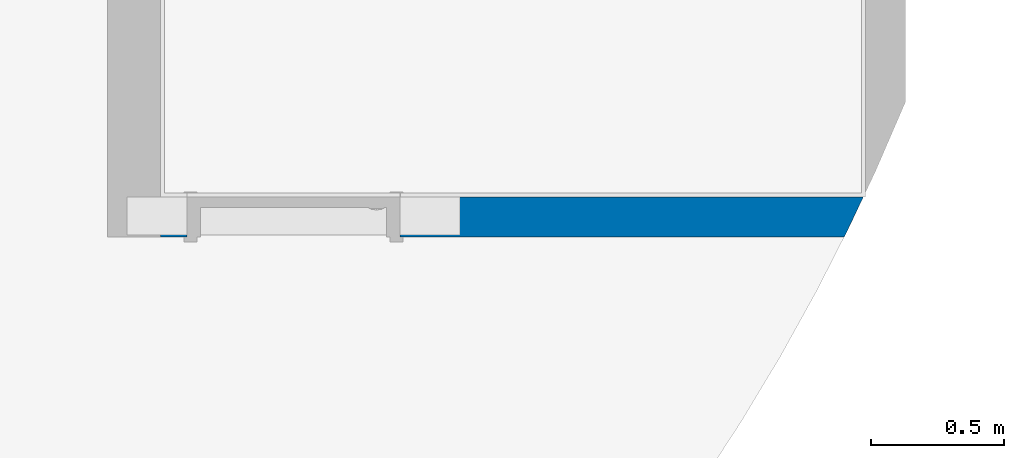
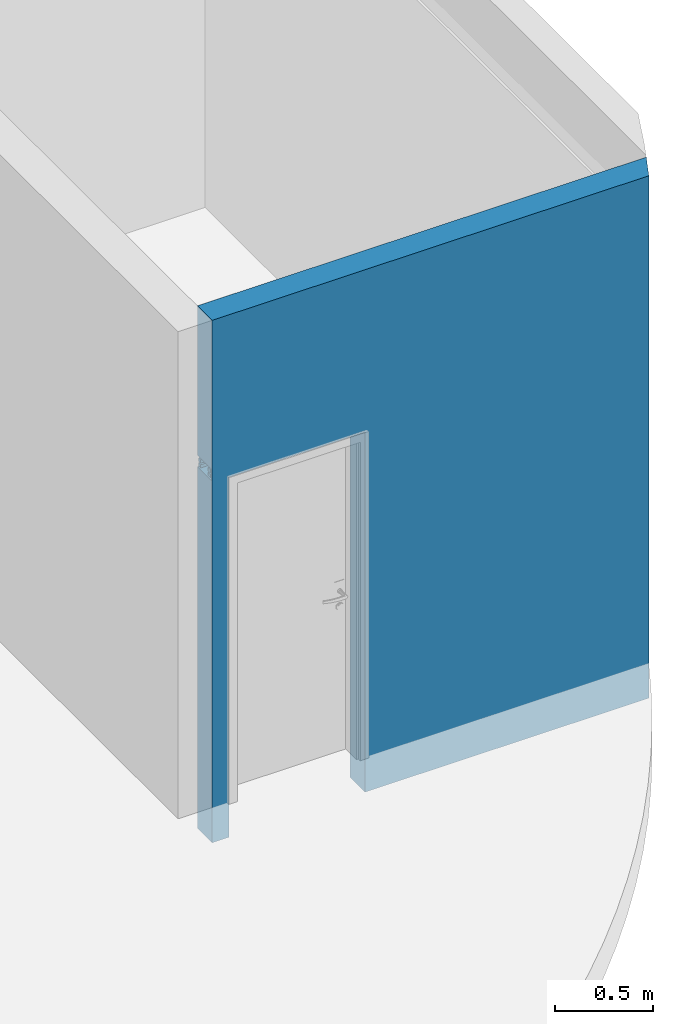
# One storey, part 17 of 21: 1 wall, 1 opening.
"""IFC4 building model written with IfcOpenShell, lengths in millimetres."""

from ifc_helpers import new_model, entity, si_unit, converted_unit, derived_unit, direction, frame, origin_with_axes, place, context, subcontext, project, spatial, polygons, material, constituent, constituent_set, type_object, element, save


model = new_model("IFC4")

# Units and contexts
model_context = context("Model", 3, precision=0.01, world=origin_with_axes(), true_north=direction((0.0, 1.0)))
body_context = subcontext(model_context, "Body", "Model", "MODEL_VIEW")
ifc_project = project(units=[si_unit("LENGTHUNIT", "METRE", prefix="MILLI"), si_unit("AREAUNIT", "SQUARE_METRE"), si_unit("VOLUMEUNIT", "CUBIC_METRE"), converted_unit("PLANEANGLEUNIT", "DEGREE", entity("IfcPlaneAngleMeasure", 0.0174532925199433), si_unit("PLANEANGLEUNIT", "RADIAN"), dimensions=[0, 0, 0, 0, 0, 0, 0]), converted_unit("TIMEUNIT", "Year", entity("IfcTimeMeasure", 31557600.0), si_unit("TIMEUNIT", "SECOND"), dimensions=[0, 0, 1, 0, 0, 0, 0]), si_unit("MASSUNIT", "GRAM", prefix="KILO"), si_unit("THERMODYNAMICTEMPERATUREUNIT", "DEGREE_CELSIUS"), si_unit("LUMINOUSINTENSITYUNIT", "LUMEN"), si_unit("ENERGYUNIT", "JOULE", prefix="MEGA"), derived_unit("THERMALCONDUCTANCEUNIT", [(si_unit("POWERUNIT", "WATT"), 1), (si_unit("LENGTHUNIT", "METRE"), -1), (si_unit("THERMODYNAMICTEMPERATUREUNIT", "KELVIN"), -1)]), derived_unit("SPECIFICHEATCAPACITYUNIT", [(si_unit("ENERGYUNIT", "JOULE"), 1), (si_unit("MASSUNIT", "GRAM", prefix="KILO"), -1), (si_unit("THERMODYNAMICTEMPERATUREUNIT", "KELVIN"), -1)]), derived_unit("MASSDENSITYUNIT", [(si_unit("MASSUNIT", "GRAM", prefix="KILO"), 1), (si_unit("VOLUMEUNIT", "CUBIC_METRE"), -1)])], contexts=[model_context])

# Site, building, storey
site_placement = place(None, origin_with_axes())
site = spatial("IfcSite", under=ifc_project, at=site_placement, Name="Exteriér", CompositionType="ELEMENT")
building_placement = place(site_placement, origin_with_axes())
building = spatial("IfcBuilding", under=site, at=building_placement, Name="Univerzitní lezecké centrum", CompositionType="ELEMENT")
storey_placement = place(building_placement, frame((0.0, 0.0, -3350.0), z_axis=(0.0, 0.0, 1.0), x_axis=(1.0, 0.0, 0.0)))
storey = spatial("IfcBuildingStorey", under=building, at=storey_placement, Name="1.PP", CompositionType="ELEMENT", Elevation=-3350.0)

# Wall, opening
ifc_material = material(Name="Keramické tvárnice nenosné tl. 150 mm")
ifc_constituent = constituent(ifc_material, Name="Keramické tvárnice nenosné tl. 150 mm")
ifc_constituent_set = constituent_set(constituents=[ifc_constituent], Name="!Vnitřní keramická stěna 150 mm - nenosná*")
wall_type = type_object("IfcWallType", Name="!Vnitřní keramická stěna 150 mm - nenosná* 150", PredefinedType="NOTDEFINED")
wall_placement = place(storey_placement, frame((9691.398444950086, -3700.000000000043, -220.0000000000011), z_axis=(0.0, 0.0, 1.0), x_axis=(-1.0, 0.0, 0.0)))
wall = element("IfcWall", 1, at=wall_placement, inside=storey, type_object=wall_type, material=ifc_constituent_set, Name="St07*", PredefinedType="NOTDEFINED", context=body_context, shape_type="Tessellation", body=[
    polygons([(2541.76007291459, 150.0000929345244, 0.500000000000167), (2541.76007291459, -3.262183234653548e-05, 0.500000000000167), (2541.760101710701, 0.0, 220.0000000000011), (2541.760101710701, 150.0000000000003, 220.0000000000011), (2541.76007291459, -3.262183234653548e-05, 0.0), (2541.76007291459, 150.0000929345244, 0.0), (1741.760160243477, -3.262183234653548e-05, 0.0), (1741.760160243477, -3.262183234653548e-05, 0.500000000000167), (1741.760101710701, 0.0, 220.0000000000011), (1741.760101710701, 0.0, 2240.000000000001), (2541.760101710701, 0.0, 2240.000000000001), (2641.286278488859, 0.0, 0.0), (2641.286278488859, 0.0, 2250.000000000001), (1516.7601017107, 0.0, 2250.000000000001), (1516.7601017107, 0.0, 2321.0), (2641.286278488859, 0.0, 2321.0), (2641.286278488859, 0.0, 3250.0), (0.0, 0.0, 3250.0), (-0.1005966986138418, 0.0, 3250.000000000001), (-0.1005966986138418, 0.0, 0.0), (2541.760101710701, 150.0000000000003, 2240.000000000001), (1741.760160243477, 150.0000929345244, 0.500000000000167), (1741.760160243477, 150.0000929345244, 0.0), (71.20078333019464, 150.0000000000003, 0.0), (71.20078333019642, 150.0000000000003, 3250.0), (2641.286278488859, 150.0000000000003, 3250.0), (2641.286278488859, 150.0000000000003, 0.0), (1741.760101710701, 150.0000000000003, 2240.000000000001), (1741.760101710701, 150.0000000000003, 220.0000000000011), (2641.286278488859, 144.274998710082, 2321.0), (2641.286278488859, 144.274998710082, 2250.000000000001), (1516.7601017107, 144.274998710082, 2250.000000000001), (1516.7601017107, 144.274998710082, 2321.0), (1516.7601017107, 33.33250000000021, 2260.499637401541), (1516.7601017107, 11.44250000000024, 2260.499637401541), (1516.7601017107, 11.44250000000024, 2280.499637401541), (1516.7601017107, 33.33250000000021, 2280.499637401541), (1516.7601017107, 33.33250000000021, 2290.5), (1516.7601017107, 11.44250000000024, 2290.5), (1516.7601017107, 11.44250000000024, 2310.500000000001), (1516.7601017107, 33.33250000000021, 2310.500000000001), (1516.7601017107, 132.8313637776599, 2280.499637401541), (1516.7601017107, 132.8313637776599, 2260.499637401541), (1516.7601017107, 110.9413637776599, 2260.499637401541), (1516.7601017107, 110.9413637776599, 2280.499637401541), (1516.7601017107, 110.9413637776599, 2290.5), (1516.7601017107, 110.9413637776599, 2310.500000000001), (1516.7601017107, 132.8313637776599, 2310.500000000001), (1516.7601017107, 132.8313637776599, 2290.5), (0.0, 0.2116299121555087, 3250.0), (2641.286278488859, 33.33249999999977, 2260.499637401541), (2641.286278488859, 11.4424999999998, 2260.499637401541), (2641.286278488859, 11.4424999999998, 2280.499637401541), (2641.286278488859, 33.33249999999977, 2280.499637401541), (2641.286278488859, 33.33249999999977, 2290.5), (2641.286278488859, 11.4424999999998, 2290.5), (2641.286278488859, 11.4424999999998, 2310.500000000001), (2641.286278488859, 33.33249999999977, 2310.500000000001), (2641.286278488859, 132.8313637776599, 2280.499637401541), (2641.286278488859, 132.8313637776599, 2260.499637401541), (2641.286278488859, 110.9413637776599, 2260.499637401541), (2641.286278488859, 110.9413637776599, 2280.499637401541), (2641.286278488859, 110.9413637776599, 2290.5), (2641.286278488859, 110.9413637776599, 2310.500000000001), (2641.286278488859, 132.8313637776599, 2310.500000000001), (2641.286278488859, 132.8313637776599, 2290.5)], [[[1, 2, 3, 4]], [[5, 2, 1, 6]], [[7, 8, 9, 10, 11, 3, 2, 5, 12, 13, 14, 15, 16, 17, 18, 19, 20]], [[21, 4, 3, 11]], [[22, 23, 24, 25, 26, 27, 6, 1, 4, 21, 28, 29]], [[5, 6, 27, 12]], [[22, 8, 7, 23]], [[8, 22, 29, 9]], [[29, 28, 10, 9]], [[28, 21, 11, 10]], [[16, 30, 31, 13, 12, 27, 26, 17]], [[32, 14, 13, 31]], [[15, 14, 32, 33], [34, 35, 36, 37], [38, 39, 40, 41], [42, 43, 44, 45], [46, 47, 48, 49]], [[15, 33, 30, 16]], [[50, 18, 17, 26, 25]], [[50, 19, 18]], [[50, 25, 24, 20, 19]], [[23, 7, 20, 24]], [[32, 31, 30, 33]], [[34, 51, 52, 35]], [[35, 52, 53, 36]], [[36, 53, 54, 37]], [[37, 54, 51, 34]], [[38, 55, 56, 39]], [[39, 56, 57, 40]], [[40, 57, 58, 41]], [[41, 58, 55, 38]], [[42, 59, 60, 43]], [[43, 60, 61, 44]], [[44, 61, 62, 45]], [[45, 62, 59, 42]], [[46, 63, 64, 47]], [[47, 64, 65, 48]], [[48, 65, 66, 49]], [[49, 66, 63, 46]], [[52, 51, 54, 53]], [[56, 55, 58, 57]], [[61, 60, 59, 62]], [[63, 66, 65, 64]]], closed=True),
])
opening_placement = place(wall_placement, frame((2141.760101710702, 0.0, 220.0000000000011), z_axis=(0.0, 0.0, 1.0), x_axis=(1.0, 0.0, 0.0)))
element("IfcOpeningElement", 2, at=opening_placement, cuts=wall, Name="D05", context=body_context, identifier="Reference", shape_type="Tessellation", body=[
    polygons([(400.0000000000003, -1.000000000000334, 2020.0), (-400.0000000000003, -1.000000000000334, 2020.0), (-400.0000000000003, -1.000000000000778, 0.0), (400.0000000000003, -1.000000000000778, 0.0), (411.9999999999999, -1.000000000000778, 0.0), (411.9999999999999, -1.000000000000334, 2032.0), (-411.9999999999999, -1.000000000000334, 2032.0), (-411.9999999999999, -1.000000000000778, 0.0), (400.0000000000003, 0.0, 0.0), (-400.0000000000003, 0.0, 0.0), (-400.0000000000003, 149.9999999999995, 0.0), (-400.0000000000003, 150.9999999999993, 0.0), (400.0000000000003, 150.9999999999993, 0.0), (400.0000000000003, 149.9999999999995, 0.0), (411.9999999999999, 0.0, 0.0), (411.9999999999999, 0.0, 2032.0), (-411.9999999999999, 0.0, 2032.0), (-411.9999999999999, 0.0, 0.0), (-400.0000000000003, 0.0, 2020.0), (-400.0000000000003, 149.9999999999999, 2020.0), (-411.9999999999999, 149.9999999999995, 0.0), (-411.9999999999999, 150.9999999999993, 0.0), (-411.9999999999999, 150.9999999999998, 2032.0), (411.9999999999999, 150.9999999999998, 2032.0), (411.9999999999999, 150.9999999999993, 0.0), (411.9999999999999, 149.9999999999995, 0.0), (400.0000000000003, 0.0, 2020.0), (400.0000000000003, 149.9999999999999, 2020.0), (411.9999999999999, 149.9999999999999, 2032.0), (-411.9999999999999, 149.9999999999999, 2032.0)], [[[1, 2, 3, 4]], [[3, 2, 1, 4, 5, 6, 7, 8]], [[9, 4, 3, 10, 11, 12, 13, 14]], [[4, 9, 15, 5]], [[15, 16, 6, 5]], [[16, 17, 7, 6]], [[17, 18, 8, 7]], [[10, 3, 8, 18]], [[10, 19, 20, 11]], [[12, 11, 21, 22]], [[13, 12, 22, 23, 24, 25]], [[14, 13, 25, 26]], [[27, 9, 14, 28]], [[27, 19, 10, 18, 17, 16, 15, 9]], [[19, 27, 28, 20]], [[11, 20, 28, 14, 26, 29, 30, 21]], [[21, 30, 23, 22]], [[30, 29, 24, 23]], [[29, 26, 25, 24]]], closed=True),
])

save(model, "model.ifc")
